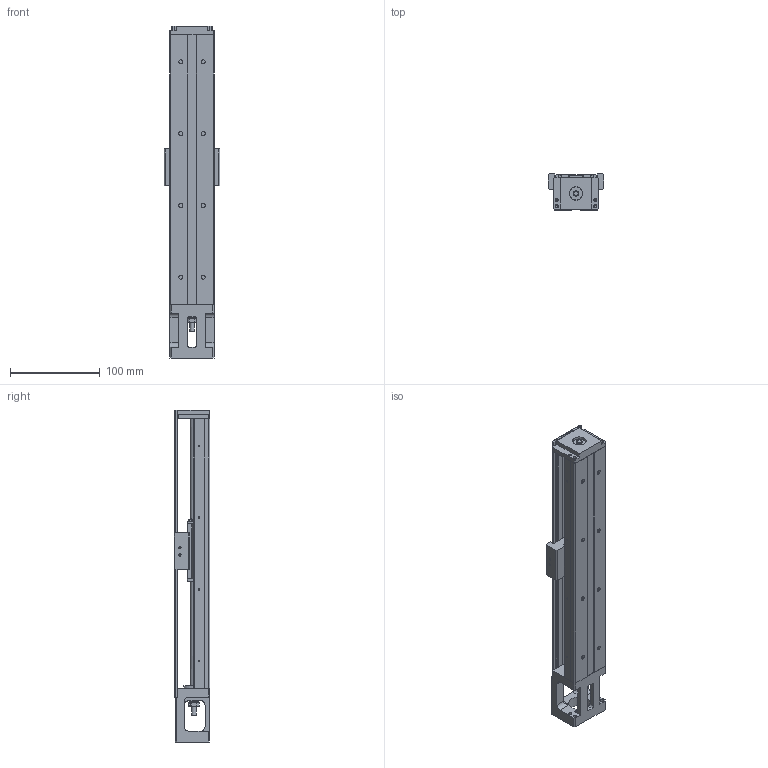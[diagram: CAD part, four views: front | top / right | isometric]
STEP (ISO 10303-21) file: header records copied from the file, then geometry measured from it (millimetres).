
FILE_DESCRIPTION(/* description */ (''),/* implementation_level */ '2;1');
FILE_NAME(/* name */ 'KP26N-300C01.stp',/* time_stamp */ '2020-03-06T16:40:24+08:00',/* author */ (''),/* organization */ (''),/* preprocessor_version */ 'ST-DEVELOPER v11',/* originating_system */ 'SIEMENS UGS NX 6.0',/* authorisation */ '');
FILE_SCHEMA (('AUTOMOTIVE_DESIGN { 1 0 10303 214 1 1 1 1 }'));
Length unit declared in the file: millimetre
Products named in the file (1): 3.069
Bounding box: 62 x 40 x 370 mm (x, y, z)
Volume: 315714.7 mm3; surface area: 136063.3 mm2
Topology: 7 solids, 12 shells, 773 faces, 1975 edges, 1274 vertices
Faces by surface type: plane 395, cylinder 278, cone 69, bspline 20, torus 6, extrusion 4, sphere 1
Full cylindrical faces by diameter (mm): 1.6 x8, 2.42 x10, 2.5 x13, 2.8 x6, 3.2 x4, 3.3 x10, 3.5 x6, 4 x4, 4.3 x4, 4.5 x8, 5 x7, 5.7 x1, 6 x9, 7.5 x4, 8 x33, 9 x2, 10 x1, 15 x2, 16.9 x1
Entity records: 33963 total; most frequent: CARTESIAN_POINT 12870, DIRECTION 3560, ORIENTED_EDGE 3388, EDGE_CURVE 1694, AXIS2_PLACEMENT_3D 1284, VERTEX_POINT 1197, EDGE_LOOP 1059, VECTOR 992
